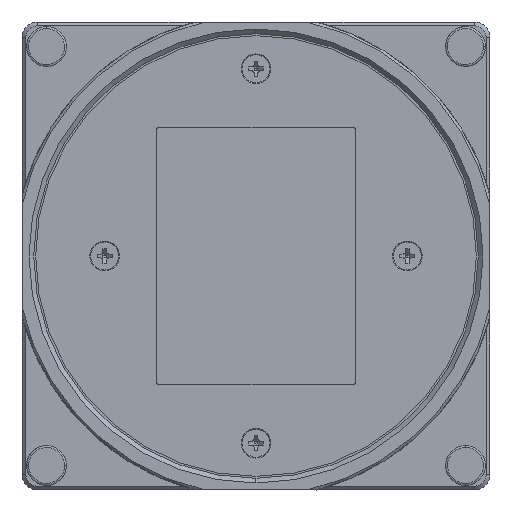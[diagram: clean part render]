
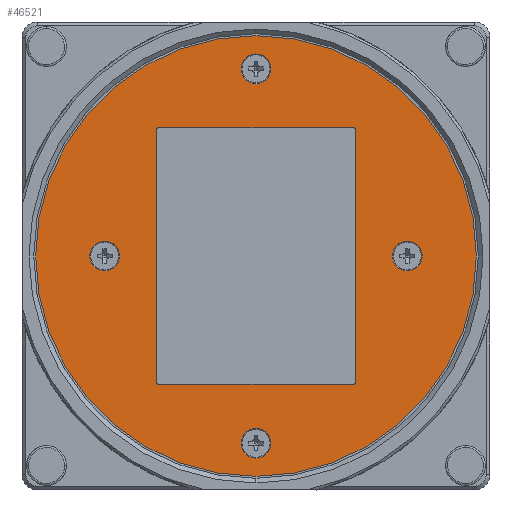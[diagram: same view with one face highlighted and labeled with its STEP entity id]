
A CAD part, left-side view. The second image highlights one B-rep face of the part: STEP entity #46521.
In plain terms, the highlighted planar face has unit normal (-1, 0, 0).
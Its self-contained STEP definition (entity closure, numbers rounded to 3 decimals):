
#9060=CARTESIAN_POINT('',(-0.47,0.,0.));
#9061=DIRECTION('',(1.,0.,0.));
#9062=DIRECTION('',(0.,1.,0.));
#9063=AXIS2_PLACEMENT_3D('',#9060,#9061,#9062);
#9065=CARTESIAN_POINT('',(-0.47,0.,0.));
#9066=DIRECTION('',(1.,0.,0.));
#9067=DIRECTION('',(0.,-1.,0.));
#9068=AXIS2_PLACEMENT_3D('',#9065,#9066,#9067);
#9070=CARTESIAN_POINT('',(-0.47,0.,24.));
#9071=DIRECTION('',(-1.,0.,0.));
#9072=DIRECTION('',(0.,1.,0.));
#9073=AXIS2_PLACEMENT_3D('',#9070,#9071,#9072);
#9075=CARTESIAN_POINT('',(-0.47,0.,24.));
#9076=DIRECTION('',(-1.,0.,0.));
#9077=DIRECTION('',(0.,-1.,0.));
#9078=AXIS2_PLACEMENT_3D('',#9075,#9076,#9077);
#9080=CARTESIAN_POINT('',(-0.47,-19.4,0.));
#9081=DIRECTION('',(-1.,0.,0.));
#9082=DIRECTION('',(0.,1.,0.));
#9083=AXIS2_PLACEMENT_3D('',#9080,#9081,#9082);
#9085=CARTESIAN_POINT('',(-0.47,-19.4,0.));
#9086=DIRECTION('',(-1.,0.,0.));
#9087=DIRECTION('',(0.,-1.,0.));
#9088=AXIS2_PLACEMENT_3D('',#9085,#9086,#9087);
#9090=CARTESIAN_POINT('',(-0.47,19.4,0.));
#9091=DIRECTION('',(-1.,0.,0.));
#9092=DIRECTION('',(0.,1.,0.));
#9093=AXIS2_PLACEMENT_3D('',#9090,#9091,#9092);
#9095=CARTESIAN_POINT('',(-0.47,19.4,0.));
#9096=DIRECTION('',(-1.,0.,0.));
#9097=DIRECTION('',(0.,-1.,0.));
#9098=AXIS2_PLACEMENT_3D('',#9095,#9096,#9097);
#9100=CARTESIAN_POINT('',(-0.47,0.,-24.));
#9101=DIRECTION('',(-1.,0.,0.));
#9102=DIRECTION('',(0.,1.,0.));
#9103=AXIS2_PLACEMENT_3D('',#9100,#9101,#9102);
#9105=CARTESIAN_POINT('',(-0.47,0.,-24.));
#9106=DIRECTION('',(-1.,0.,0.));
#9107=DIRECTION('',(0.,-1.,0.));
#9108=AXIS2_PLACEMENT_3D('',#9105,#9106,#9107);
#9110=DIRECTION('',(0.,0.,1.));
#9111=VECTOR('',#9110,32.5);
#9112=CARTESIAN_POINT('',(-0.47,-12.703,-16.25));
#9113=LINE('',#9112,#9111);
#9114=CARTESIAN_POINT('',(-0.47,-12.503,16.25));
#9115=DIRECTION('',(-1.,0.,0.));
#9116=DIRECTION('',(0.,-1.,0.));
#9117=AXIS2_PLACEMENT_3D('',#9114,#9115,#9116);
#9119=DIRECTION('',(0.,1.,0.));
#9120=VECTOR('',#9119,25.);
#9121=CARTESIAN_POINT('',(-0.47,-12.503,16.45));
#9122=LINE('',#9121,#9120);
#9123=CARTESIAN_POINT('',(-0.47,12.497,16.25));
#9124=DIRECTION('',(-1.,0.,0.));
#9125=DIRECTION('',(0.,0.,1.));
#9126=AXIS2_PLACEMENT_3D('',#9123,#9124,#9125);
#9128=DIRECTION('',(0.,0.,-1.));
#9129=VECTOR('',#9128,32.5);
#9130=CARTESIAN_POINT('',(-0.47,12.697,16.25));
#9131=LINE('',#9130,#9129);
#9132=CARTESIAN_POINT('',(-0.47,12.497,-16.25));
#9133=DIRECTION('',(-1.,0.,0.));
#9134=DIRECTION('',(0.,1.,0.));
#9135=AXIS2_PLACEMENT_3D('',#9132,#9133,#9134);
#9137=DIRECTION('',(0.,-1.,0.));
#9138=VECTOR('',#9137,25.);
#9139=CARTESIAN_POINT('',(-0.47,12.497,-16.45));
#9140=LINE('',#9139,#9138);
#9141=CARTESIAN_POINT('',(-0.47,-12.503,-16.25));
#9142=DIRECTION('',(-1.,0.,0.));
#9143=DIRECTION('',(0.,0.,-1.));
#9144=AXIS2_PLACEMENT_3D('',#9141,#9142,#9143);
#32766=CARTESIAN_POINT('',(-0.47,-28.25,0.));
#32767=VERTEX_POINT('',#32766);
#32768=CARTESIAN_POINT('',(-0.47,28.25,0.));
#32769=VERTEX_POINT('',#32768);
#32770=CARTESIAN_POINT('',(-0.47,1.9,24.));
#32771=CARTESIAN_POINT('',(-0.47,-1.9,24.));
#32772=VERTEX_POINT('',#32770);
#32773=VERTEX_POINT('',#32771);
#32774=CARTESIAN_POINT('',(-0.47,-17.5,0.));
#32775=CARTESIAN_POINT('',(-0.47,-21.3,0.));
#32776=VERTEX_POINT('',#32774);
#32777=VERTEX_POINT('',#32775);
#32778=CARTESIAN_POINT('',(-0.47,21.3,0.));
#32779=CARTESIAN_POINT('',(-0.47,17.5,0.));
#32780=VERTEX_POINT('',#32778);
#32781=VERTEX_POINT('',#32779);
#32782=CARTESIAN_POINT('',(-0.47,1.9,-24.));
#32783=CARTESIAN_POINT('',(-0.47,-1.9,-24.));
#32784=VERTEX_POINT('',#32782);
#32785=VERTEX_POINT('',#32783);
#32786=CARTESIAN_POINT('',(-0.47,-12.703,-16.25));
#32787=CARTESIAN_POINT('',(-0.47,-12.703,16.25));
#32788=VERTEX_POINT('',#32786);
#32789=VERTEX_POINT('',#32787);
#32790=CARTESIAN_POINT('',(-0.47,-12.503,16.45));
#32791=VERTEX_POINT('',#32790);
#32792=CARTESIAN_POINT('',(-0.47,12.497,16.45));
#32793=VERTEX_POINT('',#32792);
#32794=CARTESIAN_POINT('',(-0.47,12.697,16.25));
#32795=VERTEX_POINT('',#32794);
#32796=CARTESIAN_POINT('',(-0.47,12.697,-16.25));
#32797=VERTEX_POINT('',#32796);
#32798=CARTESIAN_POINT('',(-0.47,12.497,-16.45));
#32799=VERTEX_POINT('',#32798);
#32800=CARTESIAN_POINT('',(-0.47,-12.503,-16.45));
#32801=VERTEX_POINT('',#32800);
#46470=CARTESIAN_POINT('',(-0.47,0.,0.));
#46471=DIRECTION('',(1.,0.,0.));
#46472=DIRECTION('',(0.,-1.,0.));
#46473=AXIS2_PLACEMENT_3D('',#46470,#46471,#46472);
#46474=PLANE('',#46473);
#46475=ORIENTED_EDGE('',*,*,#46450,.T.);
#46476=ORIENTED_EDGE('',*,*,#46464,.T.);
#46477=EDGE_LOOP('',(#46475,#46476));
#46478=FACE_OUTER_BOUND('',#46477,.F.);
#46480=ORIENTED_EDGE('',*,*,#46479,.T.);
#46482=ORIENTED_EDGE('',*,*,#46481,.T.);
#46483=EDGE_LOOP('',(#46480,#46482));
#46484=FACE_BOUND('',#46483,.F.);
#46486=ORIENTED_EDGE('',*,*,#46485,.T.);
#46488=ORIENTED_EDGE('',*,*,#46487,.T.);
#46489=EDGE_LOOP('',(#46486,#46488));
#46490=FACE_BOUND('',#46489,.F.);
#46492=ORIENTED_EDGE('',*,*,#46491,.T.);
#46494=ORIENTED_EDGE('',*,*,#46493,.T.);
#46495=EDGE_LOOP('',(#46492,#46494));
#46496=FACE_BOUND('',#46495,.F.);
#46498=ORIENTED_EDGE('',*,*,#46497,.T.);
#46500=ORIENTED_EDGE('',*,*,#46499,.T.);
#46501=EDGE_LOOP('',(#46498,#46500));
#46502=FACE_BOUND('',#46501,.F.);
#46504=ORIENTED_EDGE('',*,*,#46503,.T.);
#46506=ORIENTED_EDGE('',*,*,#46505,.T.);
#46508=ORIENTED_EDGE('',*,*,#46507,.T.);
#46510=ORIENTED_EDGE('',*,*,#46509,.T.);
#46512=ORIENTED_EDGE('',*,*,#46511,.T.);
#46514=ORIENTED_EDGE('',*,*,#46513,.T.);
#46516=ORIENTED_EDGE('',*,*,#46515,.T.);
#46518=ORIENTED_EDGE('',*,*,#46517,.T.);
#46519=EDGE_LOOP('',(#46504,#46506,#46508,#46510,#46512,#46514,#46516,#46518));
#46520=FACE_BOUND('',#46519,.F.);
#46521=ADVANCED_FACE('',(#46478,#46484,#46490,#46496,#46502,#46520),#46474,.F.);
#9064=CIRCLE('',#9063,28.25);
#9069=CIRCLE('',#9068,28.25);
#9074=CIRCLE('',#9073,1.9);
#9079=CIRCLE('',#9078,1.9);
#9084=CIRCLE('',#9083,1.9);
#9089=CIRCLE('',#9088,1.9);
#9094=CIRCLE('',#9093,1.9);
#9099=CIRCLE('',#9098,1.9);
#9104=CIRCLE('',#9103,1.9);
#9109=CIRCLE('',#9108,1.9);
#9118=CIRCLE('',#9117,0.2);
#9127=CIRCLE('',#9126,0.2);
#9136=CIRCLE('',#9135,0.2);
#9145=CIRCLE('',#9144,0.2);
#46450=EDGE_CURVE('',#32769,#32767,#9064,.T.);
#46464=EDGE_CURVE('',#32767,#32769,#9069,.T.);
#46479=EDGE_CURVE('',#32772,#32773,#9074,.T.);
#46481=EDGE_CURVE('',#32773,#32772,#9079,.T.);
#46485=EDGE_CURVE('',#32776,#32777,#9084,.T.);
#46487=EDGE_CURVE('',#32777,#32776,#9089,.T.);
#46491=EDGE_CURVE('',#32780,#32781,#9094,.T.);
#46493=EDGE_CURVE('',#32781,#32780,#9099,.T.);
#46497=EDGE_CURVE('',#32784,#32785,#9104,.T.);
#46499=EDGE_CURVE('',#32785,#32784,#9109,.T.);
#46503=EDGE_CURVE('',#32788,#32789,#9113,.T.);
#46505=EDGE_CURVE('',#32789,#32791,#9118,.T.);
#46507=EDGE_CURVE('',#32791,#32793,#9122,.T.);
#46509=EDGE_CURVE('',#32793,#32795,#9127,.T.);
#46511=EDGE_CURVE('',#32795,#32797,#9131,.T.);
#46513=EDGE_CURVE('',#32797,#32799,#9136,.T.);
#46515=EDGE_CURVE('',#32799,#32801,#9140,.T.);
#46517=EDGE_CURVE('',#32801,#32788,#9145,.T.);
